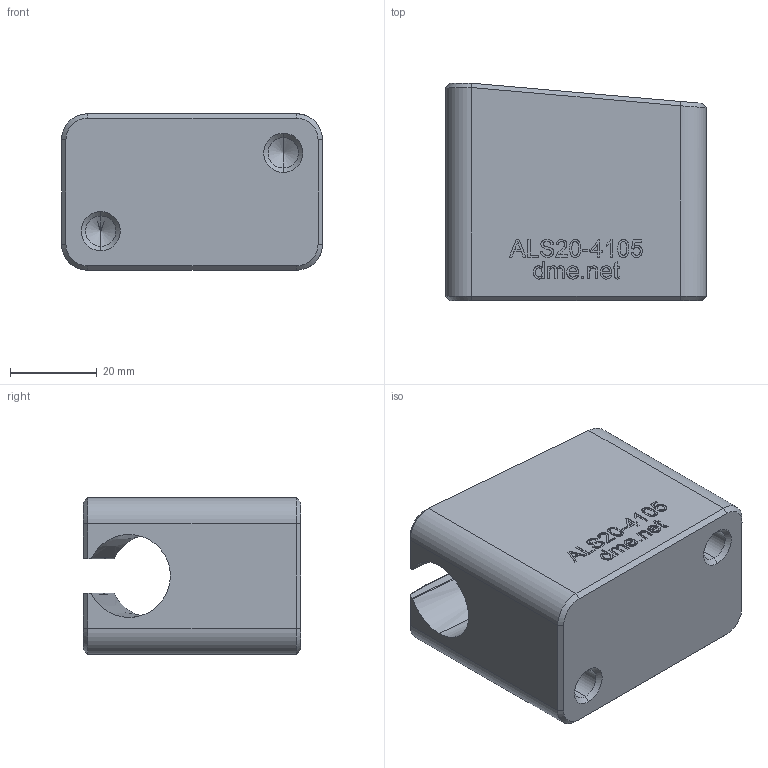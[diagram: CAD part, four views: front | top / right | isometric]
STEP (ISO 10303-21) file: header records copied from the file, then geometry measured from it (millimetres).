
FILE_DESCRIPTION (( 'STEP AP203' ), '1' );
FILE_NAME ('ALS20-4105.STEP', '2021-01-11T12:48:40', ( '' ), ( '' ), 'SwSTEP 2.0', 'SolidWorks 2020', '' );
FILE_SCHEMA (( 'CONFIG_CONTROL_DESIGN' ));
Length unit declared in the file: millimetre
Products named in the file (1): ALS20-4105
Bounding box: 60 x 50 x 36 mm (x, y, z)
Volume: 82560.6 mm3; surface area: 15731.8 mm2
Topology: 1 solids, 1 shells, 278 faces, 730 edges, 476 vertices
Faces by surface type: plane 144, bspline 106, cone 14, cylinder 14
Entity records: 14319 total; most frequent: CARTESIAN_POINT 8167, ORIENTED_EDGE 1452, DIRECTION 868, EDGE_CURVE 726, VERTEX_POINT 476, LINE 474, VECTOR 474, EDGE_LOOP 304
